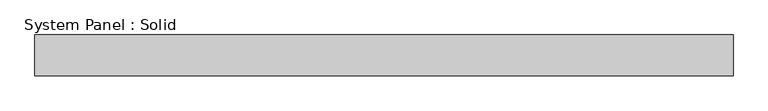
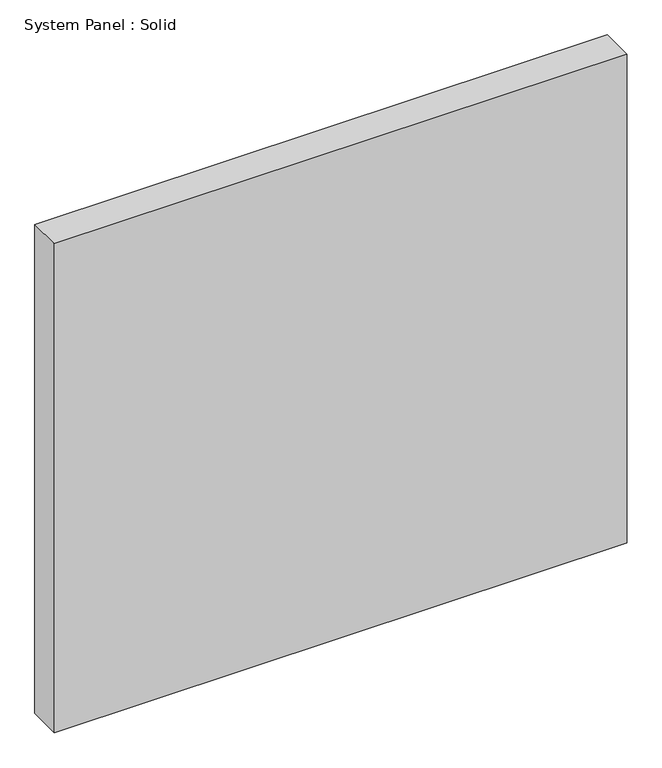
"""IFC4 building model written with IfcOpenShell, lengths in millimetres: plate geometry, System Panel : Solid."""

from ifc_helpers import new_model, si_unit, origin, origin_with_axes, place, context, project, spatial, polyline, outline, extrude, source, transform, mapped, element, save


def system_panel_solid_2b2d5e45(model_context):
    return source(origin(), model_context, "Body", "SweptSolid", [
        extrude(outline(polyline([(512.5, -49.5), (-512.5, -49.5), (-512.5, 10.5), (512.5, 10.5), (512.5, -49.5)])), origin_with_axes(), (0.0, 0.0, 1.0), 925.0),
    ])


if __name__ == "__main__":
    model = new_model("IFC4")
    model_context = context("Model", 3, world=origin())
    ifc_project = project(units=[si_unit("LENGTHUNIT", "METRE", prefix="MILLI")], contexts=[model_context])
    site = spatial("IfcSite", under=ifc_project)
    building = spatial("IfcBuilding", under=site)
    placement = place(None, origin())
    system_panel_solid_shape = system_panel_solid_2b2d5e45(model_context)
    element("IfcPlate", 1, ObjectType="System Panel : Solid", at=placement, inside=building, context=model_context, shape_type="MappedRepresentation", body=[
        mapped(system_panel_solid_shape, transform((0.0, 0.0, 0.0), x_axis=(1.0, 0.0, 0.0), y_axis=(0.0, 1.0, 0.0), z_axis=(0.0, 0.0, 1.0))),
    ])
    save(model, "model.ifc")
